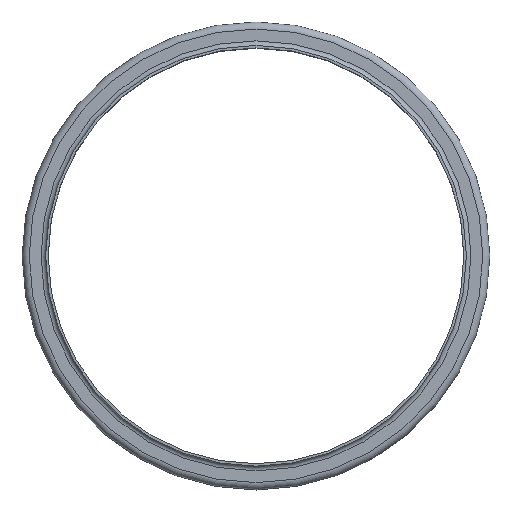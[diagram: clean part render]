
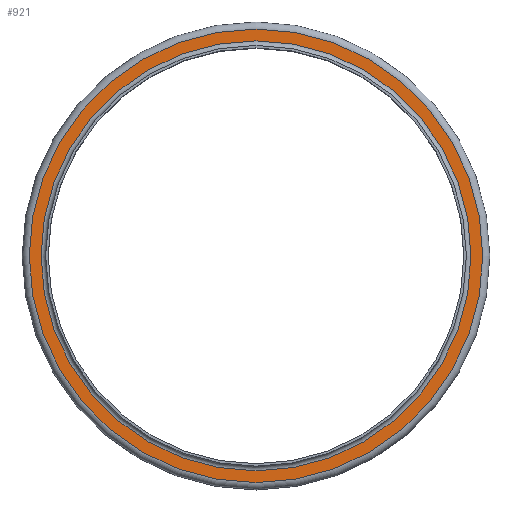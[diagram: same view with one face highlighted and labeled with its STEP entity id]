
A CAD part, top view. The second image highlights one B-rep face of the part: STEP entity #921.
In plain terms, the highlighted planar face has unit normal (0, 0, 1).
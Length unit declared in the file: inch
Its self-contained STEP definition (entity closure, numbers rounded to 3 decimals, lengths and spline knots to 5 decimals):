
#98=FACE_BOUND('',#272,.T.);
#165=FACE_OUTER_BOUND('',#271,.T.);
#271=EDGE_LOOP('',(#772));
#272=EDGE_LOOP('',(#773));
#385=CIRCLE('',#1110,10.34125);
#386=CIRCLE('',#1112,10.90875);
#466=VERTEX_POINT('',#1734);
#467=VERTEX_POINT('',#1738);
#571=EDGE_CURVE('',#466,#466,#385,.T.);
#572=EDGE_CURVE('',#467,#467,#386,.T.);
#772=ORIENTED_EDGE('',*,*,#572,.F.);
#773=ORIENTED_EDGE('',*,*,#571,.T.);
#854=PLANE('',#1111);
#921=ADVANCED_FACE('',(#165,#98),#854,.T.);
#1110=AXIS2_PLACEMENT_3D('',#1736,#1446,#1447);
#1111=AXIS2_PLACEMENT_3D('',#1737,#1448,#1449);
#1112=AXIS2_PLACEMENT_3D('',#1739,#1450,#1451);
#1446=DIRECTION('center_axis',(0.,0.,-1.));
#1447=DIRECTION('ref_axis',(1.,0.,0.));
#1448=DIRECTION('center_axis',(0.,0.,1.));
#1449=DIRECTION('ref_axis',(1.,0.,0.));
#1450=DIRECTION('center_axis',(0.,0.,-1.));
#1451=DIRECTION('ref_axis',(1.,0.,0.));
#1734=CARTESIAN_POINT('',(10.34125,0.,-0.22125));
#1736=CARTESIAN_POINT('Origin',(0.,0.,-0.22125));
#1737=CARTESIAN_POINT('Origin',(0.,10.90875,-0.22125));
#1738=CARTESIAN_POINT('',(10.90875,0.,-0.22125));
#1739=CARTESIAN_POINT('Origin',(0.,0.,-0.22125));
